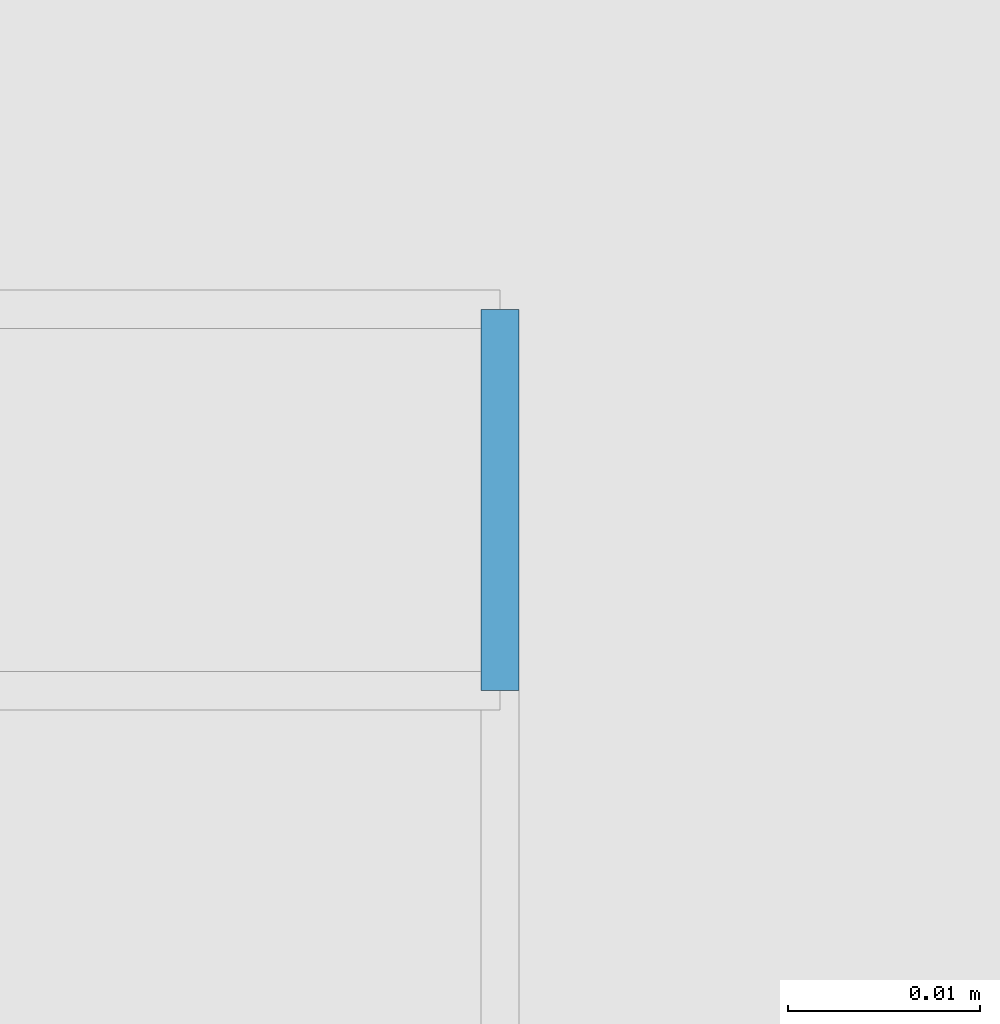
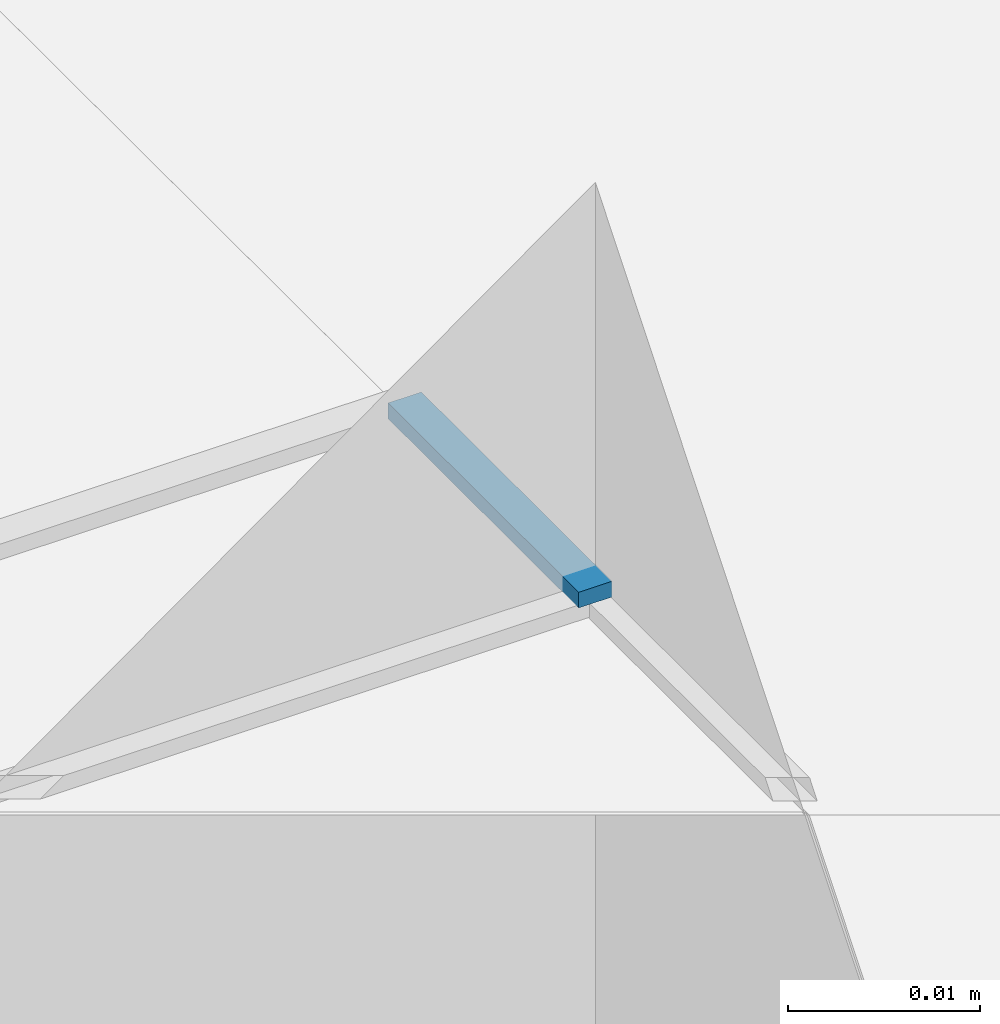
# One storey, part 4 of 6: 1 beam.
"""IFC2X3 building model written with IfcOpenShell, lengths in metres."""

import ifcopenshell
import ifcopenshell.guid

model = None  # the IFC model being written
_history = None  # IfcOwnerHistory: only IFC2X3 demands one
_inside = {}  # id of a spatial element -> (the spatial element, [elements in it])
_under = {}  # id of a project, library or spatial element -> (it, [spatial elements below it])
_declared = {}  # id of a project -> (the project, [libraries it declares])
_typed = {}  # id of a type object -> (the type object, [elements of that type])
_made_of = {}  # id of a material, layer set ... -> (it, [elements and type objects made of it])


def new_model(schema):
    """Start an empty IFC model of exactly this schema.

    Asked for "IFC4X3", IfcOpenShell would pick the latest addendum, in which some entities
    have other attributes; the version numbers below select the first issue.
    IFC2X3 requires an IfcOwnerHistory on every rooted entity: one is made here for all.
    """
    global model, _history
    if schema == "IFC4X3":
        model = ifcopenshell.file(schema_version=(4, 3, 0, 0))
    else:
        model = ifcopenshell.file(schema=schema)
    _inside.clear()
    _under.clear()
    _declared.clear()
    _typed.clear()
    _made_of.clear()
    _history = None
    if model.schema == "IFC2X3":
        org = make("IfcOrganization", Name="unknown")
        user = make(
            "IfcPersonAndOrganization",
            ThePerson=make("IfcPerson", FamilyName="unknown"),
            TheOrganization=org,
        )
        app = make(
            "IfcApplication",
            ApplicationDeveloper=org,
            Version="unknown",
            ApplicationFullName="unknown",
            ApplicationIdentifier="unknown",
        )
        _history = make(
            "IfcOwnerHistory",
            OwningUser=user,
            OwningApplication=app,
            ChangeAction="ADDED",
            CreationDate=0,
        )
    return model


def make(cls, **values):
    """One entity of the class cls with the attributes given. An attribute that is None is left unset."""
    return model.create_entity(
        cls, **{name: value for name, value in values.items() if value is not None}
    )


def rooted(cls, **values):
    """An entity with a GlobalId (a new one), such as an element, a storey or a relation."""
    return make(cls, GlobalId=ifcopenshell.guid.new(), OwnerHistory=_history, **values)


def si_unit(unit_type, name, prefix=None):
    """IfcSIUnit, for example si_unit("LENGTHUNIT", "METRE", prefix="MILLI")."""
    return make("IfcSIUnit", UnitType=unit_type, Prefix=prefix, Name=name)


def assignment(units):
    """IfcUnitAssignment: the units of a project."""
    return None if units is None else make("IfcUnitAssignment", Units=units)


def point(xyz):
    """IfcCartesianPoint."""
    return None if xyz is None else make("IfcCartesianPoint", Coordinates=xyz)


def direction(xyz):
    """IfcDirection."""
    return None if xyz is None else make("IfcDirection", DirectionRatios=xyz)


def frame(location, z_axis=None, x_axis=None):
    """IfcAxis2Placement3D, a coordinate frame: its origin and axes. An axis left out is left unset."""
    return make(
        "IfcAxis2Placement3D",
        Location=point(location),
        Axis=direction(z_axis),
        RefDirection=direction(x_axis),
    )


def origin_with_axes():
    """The frame at (0, 0, 0) with the z axis (0, 0, 1) and the x axis (1, 0, 0) written out."""
    return frame((0.0, 0.0, 0.0), z_axis=(0.0, 0.0, 1.0), x_axis=(1.0, 0.0, 0.0))


def place(relative_to, where):
    """IfcLocalPlacement: puts the frame where relative to a parent placement (None: the world)."""
    return make(
        "IfcLocalPlacement", PlacementRelTo=relative_to, RelativePlacement=where
    )


def context(
    kind, dimensions, precision=None, world=None, true_north=None, identifier=None
):
    """IfcGeometricRepresentationContext, for example the 3D "Model" context."""
    return make(
        "IfcGeometricRepresentationContext",
        ContextIdentifier=identifier,
        ContextType=kind,
        CoordinateSpaceDimension=dimensions,
        Precision=precision,
        WorldCoordinateSystem=world,
        TrueNorth=true_north,
    )


def subcontext(parent, identifier, kind, view, scale=None):
    """IfcGeometricRepresentationSubContext, for example "Body" below "Model"."""
    return make(
        "IfcGeometricRepresentationSubContext",
        ContextIdentifier=identifier,
        ContextType=kind,
        ParentContext=parent,
        TargetScale=scale,
        TargetView=view,
    )


def project(units=None, contexts=None):
    """IfcProject with its units and contexts."""
    return rooted(
        "IfcProject",
        Name="project",
        RepresentationContexts=contexts,
        UnitsInContext=assignment(units),
    )


def spatial(cls, under=None, at=None, **own):
    """A site, building, storey or space (cls), placed at a placement, below another one or the project."""
    s = rooted(cls, ObjectPlacement=at, **own)
    if under is not None:
        _under.setdefault(under.id(), (under, []))[1].append(s)
    return s


def polyline(points):
    """IfcPolyline through the points."""
    return make("IfcPolyline", Points=[point(p) for p in points])


def outline(outer, holes=None, kind="AREA"):
    """IfcArbitraryClosedProfileDef: a profile drawn as a closed curve; with holes, ...WithVoids."""
    if holes is None:
        return make("IfcArbitraryClosedProfileDef", ProfileType=kind, OuterCurve=outer)
    return make(
        "IfcArbitraryProfileDefWithVoids",
        ProfileType=kind,
        OuterCurve=outer,
        InnerCurves=holes,
    )


def extrude(swept, where, along, depth):
    """IfcExtrudedAreaSolid: the profile swept, set in the frame where, extruded along a direction by depth."""
    return make(
        "IfcExtrudedAreaSolid",
        SweptArea=swept,
        Position=where,
        ExtrudedDirection=direction(along),
        Depth=depth,
    )


def shape(context_of_items, identifier, shape_type, items):
    """IfcShapeRepresentation: the items that make up one representation, for example the "Body"."""
    return make(
        "IfcShapeRepresentation",
        ContextOfItems=context_of_items,
        RepresentationIdentifier=identifier,
        RepresentationType=shape_type,
        Items=items,
    )


def material(Name=None, Category=None):
    """IfcMaterial."""
    return make("IfcMaterial", Name=Name, Category=Category)


def made_of(thing, what):
    """Note that an element or type object is made of a material, layer set ...; save() writes the relation."""
    if what is not None:
        _made_of.setdefault(what.id(), (what, []))[1].append(thing)
    return thing


def type_object(cls, material=None, **own):
    """A type object (cls), such as IfcWallType, which elements share."""
    return made_of(rooted(cls, **own), material)


def element(
    cls,
    number,
    at=None,
    inside=None,
    cuts=None,
    type_object=None,
    material=None,
    context=None,
    identifier="Body",
    shape_type=None,
    held_by="IfcProductDefinitionShape",
    body=None,
    shapes=None,
    **own,
):
    """One element of the class cls, such as IfcWall. Its Tag is "e" and its number.

    at: its placement. inside: the storey or other place that contains it. cuts: it is an
    opening in that element (IfcRelVoidsElement). A single representation is given by context,
    identifier, shape_type and body (its items); several are given by shapes. held_by: the class
    of the entity that holds the representations. save() writes the other relations.
    """
    e = rooted(cls, Tag="e%d" % number, ObjectPlacement=at, **own)
    if body is not None:
        shapes = [shape(context, identifier, shape_type, body)]
    if shapes is not None:
        e.Representation = make(held_by, Representations=shapes)
    if inside is not None:
        _inside.setdefault(inside.id(), (inside, []))[1].append(e)
    if cuts is not None:
        rooted(
            "IfcRelVoidsElement", RelatingBuildingElement=cuts, RelatedOpeningElement=e
        )
    if type_object is not None:
        _typed.setdefault(type_object.id(), (type_object, []))[1].append(e)
    return made_of(e, material)


def aggregate(whole, parts):
    """IfcRelAggregates: a whole, such as a stair, and the parts it consists of."""
    return rooted("IfcRelAggregates", RelatingObject=whole, RelatedObjects=parts)


def save(model, path):
    """Write the relations noted so far, then the file.

    IfcRelAggregates (storeys below a building ...), IfcRelContainedInSpatialStructure (elements
    in a storey), IfcRelDefinesByType, IfcRelAssociatesMaterial and IfcRelDeclares: one each for
    every whole, place, type object, material and project.
    """
    for whole, parts in _under.values():
        aggregate(whole, parts)
    for where, things in _inside.values():
        rooted(
            "IfcRelContainedInSpatialStructure",
            RelatedElements=things,
            RelatingStructure=where,
        )
    for kind, things in _typed.values():
        rooted("IfcRelDefinesByType", RelatedObjects=things, RelatingType=kind)
    for what, things in _made_of.values():
        rooted("IfcRelAssociatesMaterial", RelatedObjects=things, RelatingMaterial=what)
    for by, libraries in _declared.values():
        rooted("IfcRelDeclares", RelatingContext=by, RelatedDefinitions=libraries)
    model.write(path)


model = new_model("IFC2X3")

# Units and contexts
model_context = context("Model", 3, precision=0.0001, world=origin_with_axes(), true_north=direction((0.0, 1.0)))
plan_context = context("Plan", 2, precision=0.0001, world=origin_with_axes(), true_north=direction((0.0, 1.0)))
body_context = subcontext(model_context, "Body", "Model", "MODEL_VIEW")
ifc_project = project(units=[si_unit("MASSUNIT", "GRAM", prefix="KILO"), si_unit("AREAUNIT", "SQUARE_METRE"), si_unit("LENGTHUNIT", "METRE"), si_unit("VOLUMEUNIT", "CUBIC_METRE")], contexts=[plan_context, model_context])

# Site, building, storey
site_placement = place(None, origin_with_axes())
site = spatial("IfcSite", under=ifc_project, at=site_placement, Name="$", CompositionType="ELEMENT")
building_placement = place(site_placement, origin_with_axes())
building = spatial("IfcBuilding", under=site, at=building_placement, Name="Classeur ENS Ensemble", CompositionType="ELEMENT")
storey_placement = place(building_placement, frame((-20.30778888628, -1.812671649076, 0.0), z_axis=(0.0, 0.0, 1.0), x_axis=(1.0, 0.0, 0.0)))
storey = spatial("IfcBuildingStorey", under=building, at=storey_placement, Name="000 Fondations", CompositionType="ELEMENT", Elevation=0.0)

# Beam
ifc_material = material(Name="Default material")
beam_type = type_object("IfcBeamType", PredefinedType="BEAM")
beam_placement = place(storey_placement, frame((25.04329531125, -5.287328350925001, -0.3199999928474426), z_axis=(0.0, 0.0, 1.0), x_axis=(7.554276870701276e-09, 1.0, 0.0)))
element("IfcBeam", 1, at=beam_placement, inside=storey, type_object=beam_type, material=ifc_material, Name="poutre fictive -32", context=body_context, shape_type="SweptSolid", held_by="IfcProductRepresentation", body=[
    extrude(outline(polyline([(5.687672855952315e-16, 0.0009999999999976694), (5.687672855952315e-16, 0.0009999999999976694), (5.687672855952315e-16, 0.0009999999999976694), (0.01985665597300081, 0.001000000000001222), (0.01985665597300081, 0.001000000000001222), (0.01985665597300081, 0.001000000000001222), (0.01985665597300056, -0.001000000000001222), (0.01985665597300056, -0.001000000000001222), (0.01985665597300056, -0.001000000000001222), (3.194111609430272e-16, -0.001000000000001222), (3.194111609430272e-16, -0.001000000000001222), (3.194111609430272e-16, -0.001000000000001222), (5.687672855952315e-16, 0.0009999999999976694)])), origin_with_axes(), (0.0, 0.0, 1.0), 0.001000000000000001),
])

save(model, "model.ifc")
